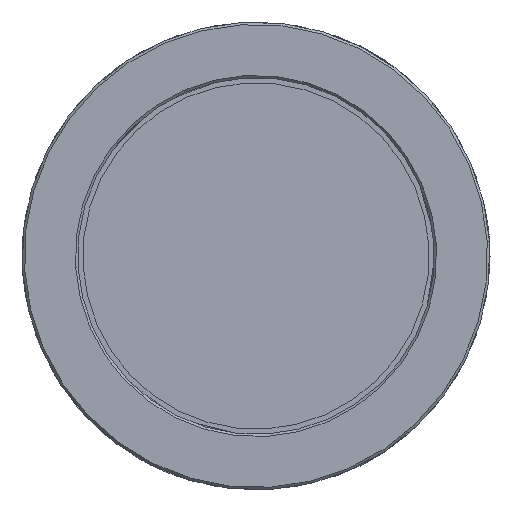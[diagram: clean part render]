
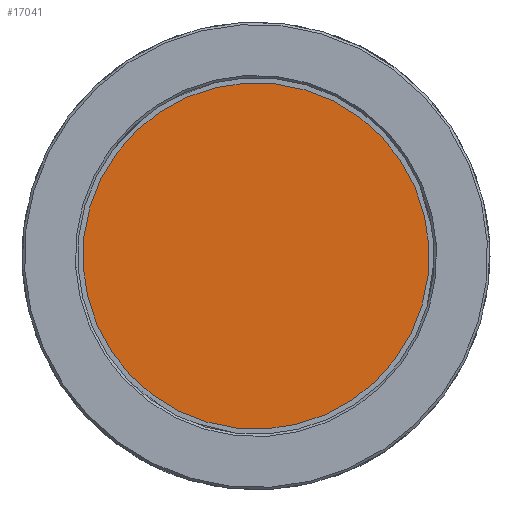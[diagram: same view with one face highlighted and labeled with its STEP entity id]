
A CAD part, left-side view. The second image highlights one B-rep face of the part: STEP entity #17041.
In plain terms, the highlighted planar face has unit normal (-1, 0, 0).
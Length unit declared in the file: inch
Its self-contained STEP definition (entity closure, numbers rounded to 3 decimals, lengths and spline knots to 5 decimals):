
#115 = ORIENTED_EDGE ( 'NONE', *, *, #3884, .F. ) ;
#176 = VERTEX_POINT ( 'NONE', #15481 ) ;
#2652 = AXIS2_PLACEMENT_3D ( 'NONE', #14464, #9221, #10497 ) ;
#3884 = EDGE_CURVE ( 'NONE', #176, #8936, #7023, .T. ) ;
#5071 = AXIS2_PLACEMENT_3D ( 'NONE', #13688, #6979, #13446 ) ;
#5437 = ORIENTED_EDGE ( 'NONE', *, *, #14154, .F. ) ;
#6942 = AXIS2_PLACEMENT_3D ( 'NONE', #12669, #7599, #16603 ) ;
#6979 = DIRECTION ( 'NONE',  ( 1., 0., 0. ) ) ;
#7023 = CIRCLE ( 'NONE', #5071, 0.84646 ) ;
#7260 = EDGE_LOOP ( 'NONE', ( #115, #5437 ) ) ;
#7599 = DIRECTION ( 'NONE',  ( -1., 0., 0. ) ) ;
#8302 = PLANE ( 'NONE',  #6942 ) ;
#8936 = VERTEX_POINT ( 'NONE', #9920 ) ;
#9221 = DIRECTION ( 'NONE',  ( 1., 0., 0. ) ) ;
#9920 = CARTESIAN_POINT ( 'NONE',  ( 0.24122, -0.8419, -0.08771 ) ) ;
#10497 = DIRECTION ( 'NONE',  ( 0., 0.995, 0.104 ) ) ;
#12669 = CARTESIAN_POINT ( 'NONE',  ( 0.24122, 0., 0. ) ) ;
#13446 = DIRECTION ( 'NONE',  ( 0., 0.995, 0.104 ) ) ;
#13688 = CARTESIAN_POINT ( 'NONE',  ( 0.24122, 0., 0. ) ) ;
#13945 = CIRCLE ( 'NONE', #2652, 0.84646 ) ;
#14154 = EDGE_CURVE ( 'NONE', #8936, #176, #13945, .T. ) ;
#14464 = CARTESIAN_POINT ( 'NONE',  ( 0.24122, 0., 0. ) ) ;
#15481 = CARTESIAN_POINT ( 'NONE',  ( 0.24122, 0.8419, 0.08771 ) ) ;
#16345 = FACE_OUTER_BOUND ( 'NONE', #7260, .T. ) ;
#16603 = DIRECTION ( 'NONE',  ( 0., -0.995, -0.104 ) ) ;
#17041 = ADVANCED_FACE ( 'NONE', ( #16345 ), #8302, .T. ) ;
